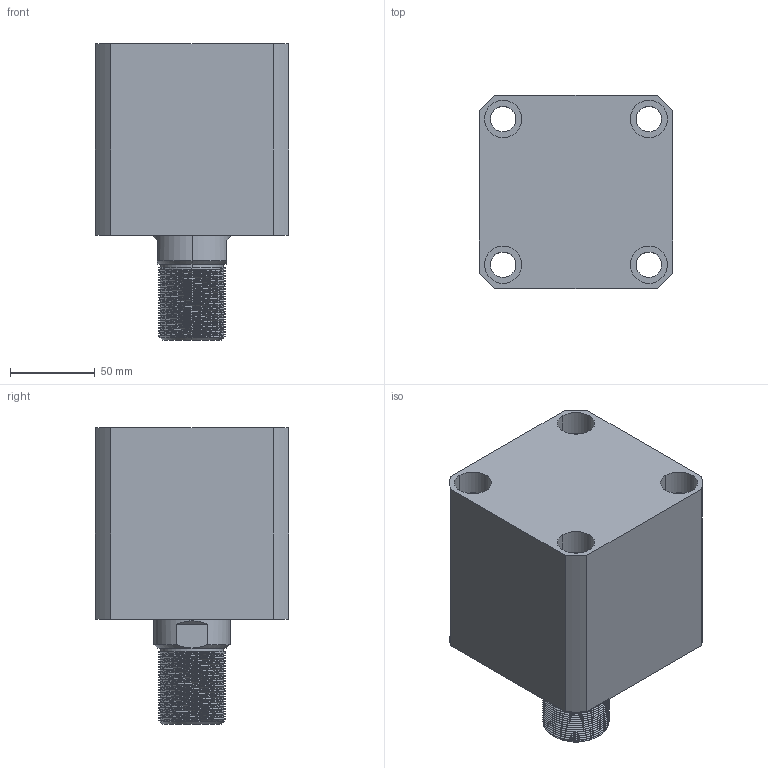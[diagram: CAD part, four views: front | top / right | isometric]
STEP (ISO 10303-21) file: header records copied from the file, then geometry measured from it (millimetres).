
FILE_DESCRIPTION (( 'STEP AP214' ), '1' );
FILE_NAME ('chtb-sdma80x35wasm.STEP', '2018-05-29T03:09:14', ( 'Windows' ), ( 'Microsoft' ), 'SwSTEP 2.0', 'SolidWorks 2015', '' );
FILE_SCHEMA (( 'AUTOMOTIVE_DESIGN' ));
Length unit declared in the file: millimetre
Products named in the file (4): CHTB-SDMA80X35NBT; CHTB-SD80X35WHSG; CHTB-SD80QG; chtb-sdma80x35wasm
Assembly tree (3 placements, depth 2):
  chtb-sdma80x35wasm
    CHTB-SD80QG
    CHTB-SD80X35WHSG
    CHTB-SDMA80X35NBT
Bounding box: 114 x 114 x 175 mm (x, y, z)
Volume: 1284450.6 mm3; surface area: 192832.2 mm2
Topology: 3 solids, 3 shells, 251 faces, 695 edges, 466 vertices
Faces by surface type: cylinder 163, plane 38, torus 18, bspline 16, cone 16
Entity records: 20277 total; most frequent: CARTESIAN_POINT 14301, ORIENTED_EDGE 1382, DIRECTION 1068, EDGE_CURVE 691, VERTEX_POINT 466, AXIS2_PLACEMENT_3D 433, EDGE_LOOP 289, ADVANCED_FACE 251
